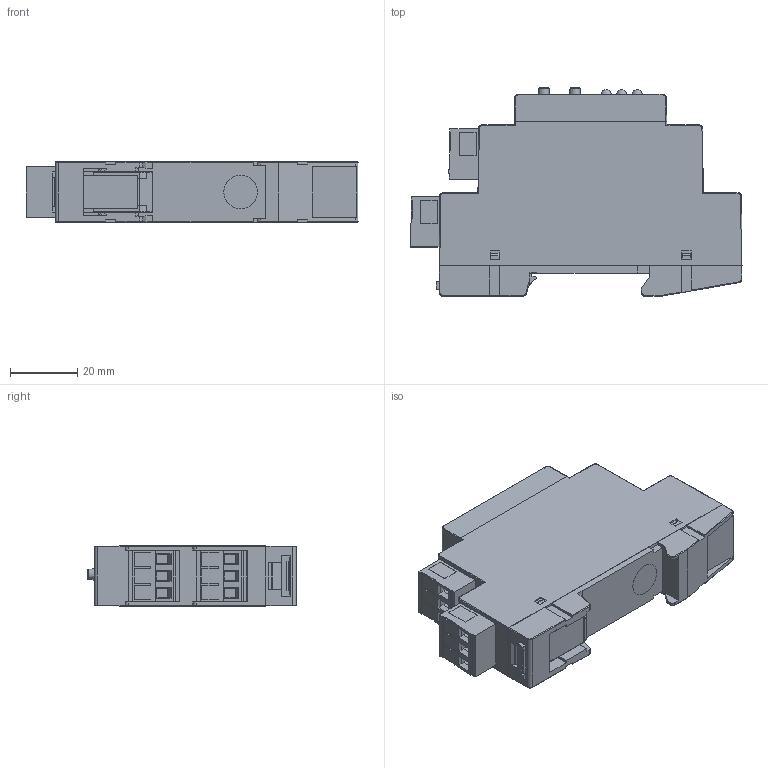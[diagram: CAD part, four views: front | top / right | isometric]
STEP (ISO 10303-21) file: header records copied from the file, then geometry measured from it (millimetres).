
FILE_DESCRIPTION(/* description */ (''),/* implementation_level */ '2;1');
FILE_NAME(/* name */ 'KNX_IO_520.stp',/* time_stamp */ '2019-11-13T08:04:56+01:00',/* author */ (''),/* organization */ (''),/* preprocessor_version */ 'ST-DEVELOPER v17',/* originating_system */ 'Autodesk Inventor 2018',/* authorisation */ '');
FILE_SCHEMA (('AUTOMOTIVE_DESIGN { 1 0 10303 214 3 1 1 }'));
Length unit declared in the file: millimetre
Products named in the file (1): KNX_IO_520
Bounding box: 98.45 x 61.7 x 17.8 mm (x, y, z)
Volume: 74873.5 mm3; surface area: 18844.9 mm2
Topology: 1 solids, 1 shells, 780 faces, 2059 edges, 1324 vertices
Faces by surface type: plane 565, cylinder 156, torus 23, sphere 17, cone 15, bspline 4
Full cylindrical faces by diameter (mm): 1.2 x1, 2.8 x1, 3 x3, 3.1 x3, 3.8 x8, 4.5 x1, 10 x1
Entity records: 24769 total; most frequent: CARTESIAN_POINT 4364, ORIENTED_EDGE 4096, DIRECTION 3970, EDGE_CURVE 2048, LINE 1634, VECTOR 1634, VERTEX_POINT 1324, AXIS2_PLACEMENT_3D 1168
